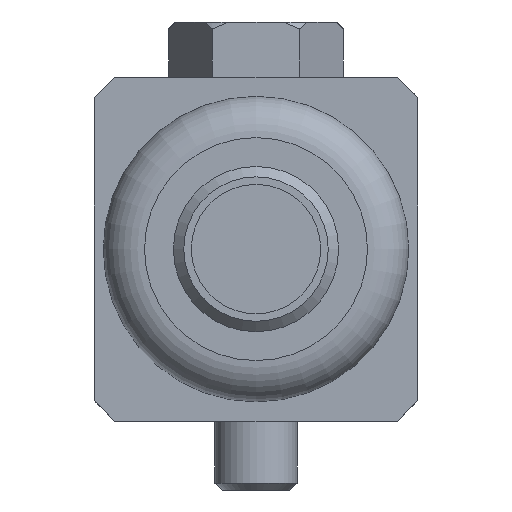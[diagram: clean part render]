
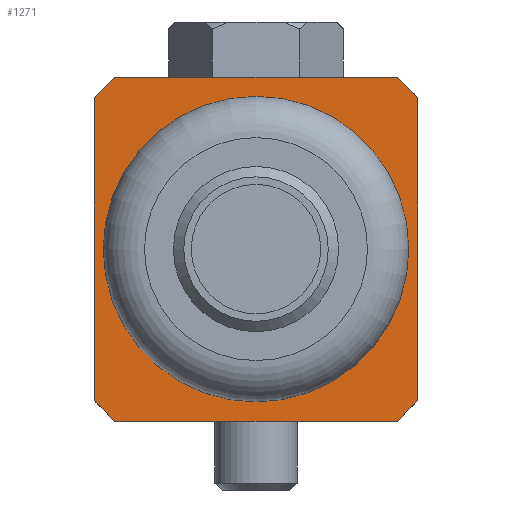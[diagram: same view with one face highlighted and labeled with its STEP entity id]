
A CAD part, front view. The second image highlights one B-rep face of the part: STEP entity #1271.
In plain terms, the highlighted planar face has unit normal (0, -1, 0).
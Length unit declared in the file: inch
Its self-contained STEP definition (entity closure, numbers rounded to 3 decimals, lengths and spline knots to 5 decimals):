
#42=FACE_BOUND('',#299,.T.);
#121=CIRCLE('',#1419,0.43701);
#122=CIRCLE('',#1420,0.43701);
#217=FACE_OUTER_BOUND('',#298,.T.);
#298=EDGE_LOOP('',(#994,#995,#996,#997,#998,#999,#1000,#1001));
#299=EDGE_LOOP('',(#1002,#1003));
#361=LINE('',#2151,#422);
#367=LINE('',#2163,#428);
#368=LINE('',#2166,#429);
#371=LINE('',#2175,#432);
#372=LINE('',#2178,#433);
#376=LINE('',#2204,#437);
#377=LINE('',#2208,#438);
#378=LINE('',#2209,#439);
#422=VECTOR('',#1700,0.3937);
#428=VECTOR('',#1708,0.3937);
#429=VECTOR('',#1711,0.3937);
#432=VECTOR('',#1720,0.3937);
#433=VECTOR('',#1725,0.3937);
#437=VECTOR('',#1755,0.3937);
#438=VECTOR('',#1760,0.3937);
#439=VECTOR('',#1761,0.3937);
#533=VERTEX_POINT('',#2147);
#535=VERTEX_POINT('',#2150);
#538=VERTEX_POINT('',#2157);
#540=VERTEX_POINT('',#2161);
#541=VERTEX_POINT('',#2165);
#544=VERTEX_POINT('',#2172);
#549=VERTEX_POINT('',#2189);
#550=VERTEX_POINT('',#2191);
#553=VERTEX_POINT('',#2202);
#554=VERTEX_POINT('',#2207);
#687=EDGE_CURVE('',#533,#535,#361,.T.);
#693=EDGE_CURVE('',#538,#540,#367,.T.);
#694=EDGE_CURVE('',#535,#541,#368,.T.);
#699=EDGE_CURVE('',#541,#544,#371,.T.);
#701=EDGE_CURVE('',#544,#540,#372,.T.);
#707=EDGE_CURVE('',#550,#549,#121,.T.);
#708=EDGE_CURVE('',#549,#550,#122,.T.);
#713=EDGE_CURVE('',#553,#533,#376,.T.);
#715=EDGE_CURVE('',#538,#554,#377,.T.);
#716=EDGE_CURVE('',#553,#554,#378,.T.);
#994=ORIENTED_EDGE('',*,*,#715,.F.);
#995=ORIENTED_EDGE('',*,*,#693,.T.);
#996=ORIENTED_EDGE('',*,*,#701,.F.);
#997=ORIENTED_EDGE('',*,*,#699,.F.);
#998=ORIENTED_EDGE('',*,*,#694,.F.);
#999=ORIENTED_EDGE('',*,*,#687,.F.);
#1000=ORIENTED_EDGE('',*,*,#713,.F.);
#1001=ORIENTED_EDGE('',*,*,#716,.T.);
#1002=ORIENTED_EDGE('',*,*,#707,.T.);
#1003=ORIENTED_EDGE('',*,*,#708,.T.);
#1138=PLANE('',#1427);
#1271=ADVANCED_FACE('',(#217,#42),#1138,.T.);
#1419=AXIS2_PLACEMENT_3D('',#2192,#1739,#1740);
#1420=AXIS2_PLACEMENT_3D('',#2193,#1741,#1742);
#1427=AXIS2_PLACEMENT_3D('',#2206,#1758,#1759);
#1700=DIRECTION('',(0.,0.,1.));
#1708=DIRECTION('',(0.,0.,1.));
#1711=DIRECTION('',(0.707,0.,0.707));
#1720=DIRECTION('',(1.,0.,0.));
#1725=DIRECTION('',(0.707,0.,-0.707));
#1739=DIRECTION('center_axis',(0.,1.,0.));
#1740=DIRECTION('ref_axis',(0.581,0.,-0.814));
#1741=DIRECTION('center_axis',(0.,1.,0.));
#1742=DIRECTION('ref_axis',(0.581,0.,-0.814));
#1755=DIRECTION('',(-0.707,0.,0.707));
#1758=DIRECTION('center_axis',(0.,-1.,0.));
#1759=DIRECTION('ref_axis',(0.,0.,
-1.));
#1760=DIRECTION('',(-0.707,0.,-0.707));
#1761=DIRECTION('',(1.,0.,0.));
#2147=CARTESIAN_POINT('',(-1.92255,-1.68852,-0.11953));
#2150=CARTESIAN_POINT('',(-1.92255,-1.68852,0.74661));
#2151=CARTESIAN_POINT('',(-1.92255,-1.68852,-0.11953));
#2157=CARTESIAN_POINT('',(-0.99735,-1.68852,-0.11953));
#2161=CARTESIAN_POINT('',(-0.99735,-1.68852,0.74661));
#2163=CARTESIAN_POINT('',(-0.99735,-1.68852,-0.11953));
#2165=CARTESIAN_POINT('',(-1.86349,-1.68852,0.80566));
#2166=CARTESIAN_POINT('',(-1.92255,-1.68852,0.74661));
#2172=CARTESIAN_POINT('',(-1.05641,-1.68852,0.80566));
#2175=CARTESIAN_POINT('',(-1.86349,-1.68852,0.80566));
#2178=CARTESIAN_POINT('',(-1.05641,-1.68852,0.80566));
#2189=CARTESIAN_POINT('',(-1.45995,-1.68852,0.75055));
#2191=CARTESIAN_POINT('',(-1.45995,-1.68852,-0.12347));
#2192=CARTESIAN_POINT('Origin',(-1.45995,-1.68852,0.31354));
#2193=CARTESIAN_POINT('Origin',(-1.45995,-1.68852,0.31354));
#2202=CARTESIAN_POINT('',(-1.86349,-1.68852,-0.17859));
#2204=CARTESIAN_POINT('',(-1.86349,-1.68852,-0.17859));
#2206=CARTESIAN_POINT('Origin',(-1.45995,-1.68852,-0.17863));
#2207=CARTESIAN_POINT('',(-1.05641,-1.68852,-0.17859));
#2208=CARTESIAN_POINT('',(-0.99735,-1.68852,-0.11953));
#2209=CARTESIAN_POINT('',(-1.86349,-1.68852,-0.17859));
